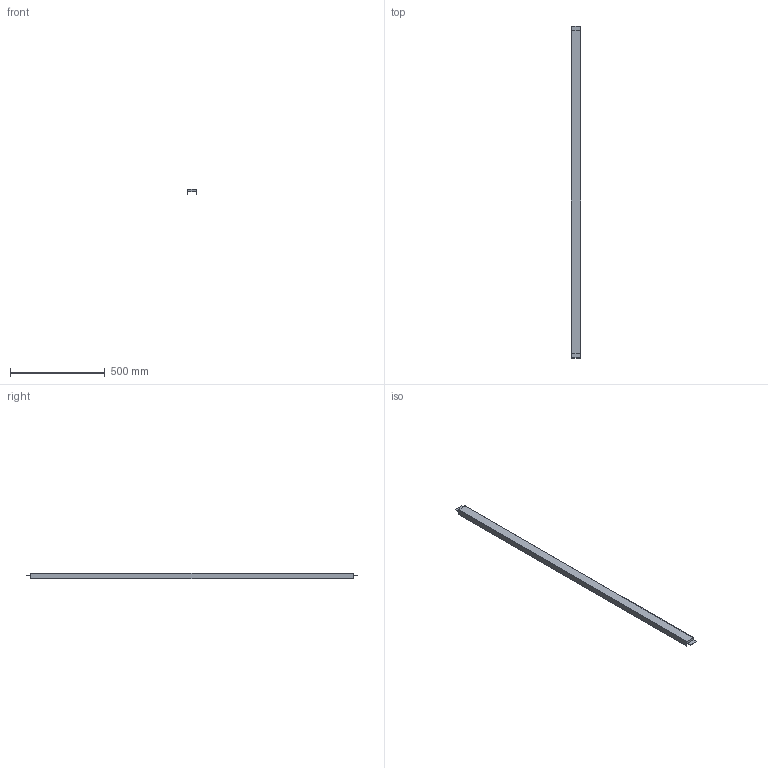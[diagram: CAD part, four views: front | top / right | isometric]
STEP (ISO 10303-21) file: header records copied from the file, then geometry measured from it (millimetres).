
FILE_DESCRIPTION( ( 'STEP AP214' ), '1' );
FILE_NAME( 'p:/temp/worker_165/temp/exporttempdir_4960_81_gO1Bg/format_0/HP1800(0).stp', '2021-03-15T19:04:51', ( 'License CC BY-ND 4.0' ), ( 'CADENAS' ), ' ', 'PARTsolutions', ' ' );
FILE_SCHEMA( ( 'AUTOMOTIVE_DESIGN { 1 0 10303 214 1 1 1 1 }' ) );
Length unit declared in the file: millimetre
Products named in the file (1): _HP1800(0)
Bounding box: 50 x 1755 x 30 mm (x, y, z)
Volume: 368114.2 mm3; surface area: 375681.4 mm2
Topology: 1 solids, 1 shells, 42 faces, 116 edges, 76 vertices
Faces by surface type: plane 42
Entity records: 1660 total; most frequent: CARTESIAN_POINT 235, ORIENTED_EDGE 232, DIRECTION 202, EDGE_CURVE 116, LINE 116, VECTOR 116, VERTEX_POINT 76, AXIS2_PLACEMENT_3D 43
